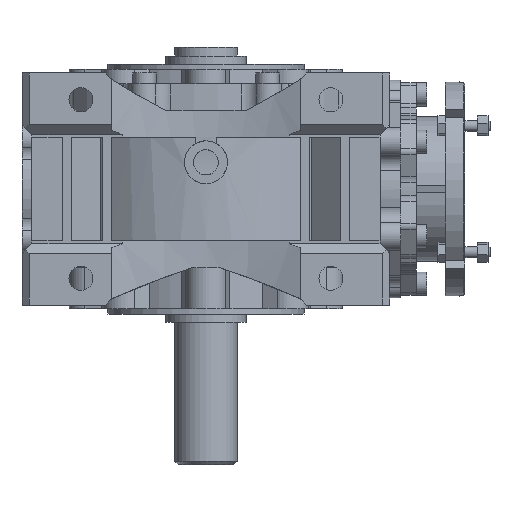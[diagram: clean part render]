
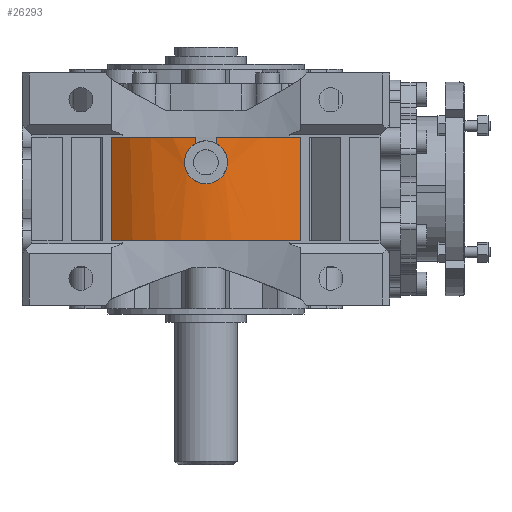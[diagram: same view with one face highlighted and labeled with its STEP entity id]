
A CAD part, front view. The second image highlights one B-rep face of the part: STEP entity #26293.
In plain terms, the highlighted cylindrical face has radius 86 mm (diameter 172 mm), a partial arc.
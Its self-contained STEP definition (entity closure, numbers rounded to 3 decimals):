
#485=B_SPLINE_CURVE_WITH_KNOTS('',3,(#42621,#42622,#42623,#42624,#42625,
#42626,#42627,#42628,#42629,#42630,#42631,#42632,#42633,#42634,#42635,#42636),
 .UNSPECIFIED.,.F.,.F.,(4,1,1,1,1,1,1,1,1,1,1,1,1,4),(0.044,
0.052,0.056,0.059,0.063,
0.067,0.071,0.075,0.083,
0.087,0.091,0.095,0.099,
0.106),.UNSPECIFIED.);
#599=CYLINDRICAL_SURFACE('',#28431,86.);
#1741=LINE('',#41614,#4010);
#1743=LINE('',#41617,#4012);
#2078=LINE('',#42619,#4347);
#2079=LINE('',#42638,#4348);
#4010=VECTOR('',#32289,1000.);
#4012=VECTOR('',#32293,1000.);
#4347=VECTOR('',#33236,1000.);
#4348=VECTOR('',#33237,1000.);
#8232=ORIENTED_EDGE('',*,*,#15225,.T.);
#8233=ORIENTED_EDGE('',*,*,#15226,.T.);
#8234=ORIENTED_EDGE('',*,*,#15227,.T.);
#8235=ORIENTED_EDGE('',*,*,#14716,.T.);
#8236=ORIENTED_EDGE('',*,*,#14729,.T.);
#8237=ORIENTED_EDGE('',*,*,#14696,.F.);
#8238=ORIENTED_EDGE('',*,*,#14727,.T.);
#8239=ORIENTED_EDGE('',*,*,#13948,.T.);
#13948=EDGE_CURVE('',#17846,#17844,#20289,.T.);
#14696=EDGE_CURVE('',#18402,#18403,#20466,.T.);
#14716=EDGE_CURVE('',#18416,#18419,#20474,.T.);
#14727=EDGE_CURVE('',#18402,#17846,#1741,.T.);
#14729=EDGE_CURVE('',#18419,#18403,#1743,.F.);
#15225=EDGE_CURVE('',#17844,#18748,#2078,.F.);
#15226=EDGE_CURVE('',#18748,#18749,#485,.T.);
#15227=EDGE_CURVE('',#18749,#18416,#2079,.T.);
#17844=VERTEX_POINT('',#39747);
#17846=VERTEX_POINT('',#39750);
#18402=VERTEX_POINT('',#41552);
#18403=VERTEX_POINT('',#41554);
#18416=VERTEX_POINT('',#41587);
#18419=VERTEX_POINT('',#41593);
#18748=VERTEX_POINT('',#42620);
#18749=VERTEX_POINT('',#42637);
#20289=CIRCLE('',#27706,86.);
#20466=CIRCLE('',#28105,86.);
#20474=CIRCLE('',#28117,86.);
#21846=EDGE_LOOP('',(#8232,#8233,#8234,#8235,#8236,#8237,#8238,#8239));
#23711=FACE_BOUND('',#21846,.T.);
#26293=ADVANCED_FACE('',(#23711),#599,.T.);
#27706=AXIS2_PLACEMENT_3D('',#39749,#31011,#31012);
#28105=AXIS2_PLACEMENT_3D('',#41553,#32229,#32230);
#28117=AXIS2_PLACEMENT_3D('',#41594,#32265,#32266);
#28431=AXIS2_PLACEMENT_3D('',#42618,#33234,#33235);
#31011=DIRECTION('',(0.,0.,1.));
#31012=DIRECTION('',(1.,0.,0.));
#32229=DIRECTION('',(0.,0.,1.));
#32230=DIRECTION('',(1.,0.,0.));
#32265=DIRECTION('',(0.,0.,1.));
#32266=DIRECTION('',(1.,0.,0.));
#32289=DIRECTION('',(0.,0.,-1.));
#32293=DIRECTION('',(0.,0.,-1.));
#33234=DIRECTION('',(0.,0.,-1.));
#33235=DIRECTION('',(-1.,0.,0.));
#33236=DIRECTION('',(0.,0.,-1.));
#33237=DIRECTION('',(0.,0.,-1.));
#39747=CARTESIAN_POINT('',(-6.,-85.79,-29.));
#39749=CARTESIAN_POINT('',(0.,0.,-29.));
#39750=CARTESIAN_POINT('',(-53.,-67.727,-29.));
#41552=CARTESIAN_POINT('',(-53.,-67.727,29.));
#41553=CARTESIAN_POINT('',(0.,0.,29.));
#41554=CARTESIAN_POINT('',(53.,-67.727,29.));
#41587=CARTESIAN_POINT('',(6.,-85.79,-29.));
#41593=CARTESIAN_POINT('',(53.,-67.727,-29.));
#41594=CARTESIAN_POINT('',(0.,0.,-29.));
#41614=CARTESIAN_POINT('',(-53.,-67.727,29.));
#41617=CARTESIAN_POINT('',(53.,-67.727,29.));
#42618=CARTESIAN_POINT('',(0.,0.,29.));
#42619=CARTESIAN_POINT('',(-6.,-85.79,29.));
#42620=CARTESIAN_POINT('',(-6.,-85.79,-25.392));
#42621=CARTESIAN_POINT('',(-6.,-85.79,-25.392));
#42622=CARTESIAN_POINT('',(-8.276,-85.631,-24.078));
#42623=CARTESIAN_POINT('',(-10.981,-85.304,-20.981));
#42624=CARTESIAN_POINT('',(-12.19,-85.131,-15.806));
#42625=CARTESIAN_POINT('',(-11.801,-85.188,-11.84));
#42626=CARTESIAN_POINT('',(-10.159,-85.407,-8.216));
#42627=CARTESIAN_POINT('',(-7.442,-85.697,-5.314));
#42628=CARTESIAN_POINT('',(-3.945,-85.937,-3.437));
#42629=CARTESIAN_POINT('',(1.337,-86.065,-2.558));
#42630=CARTESIAN_POINT('',(6.541,-85.796,-4.343));
#42631=CARTESIAN_POINT('',(10.159,-85.407,-8.217));
#42632=CARTESIAN_POINT('',(11.8,-85.188,-11.839));
#42633=CARTESIAN_POINT('',(12.19,-85.131,-15.804));
#42634=CARTESIAN_POINT('',(10.984,-85.304,-20.979));
#42635=CARTESIAN_POINT('',(8.266,-85.632,-24.084));
#42636=CARTESIAN_POINT('',(6.,-85.79,-25.392));
#42637=CARTESIAN_POINT('',(6.,-85.79,-25.392));
#42638=CARTESIAN_POINT('',(6.,-85.79,29.));
